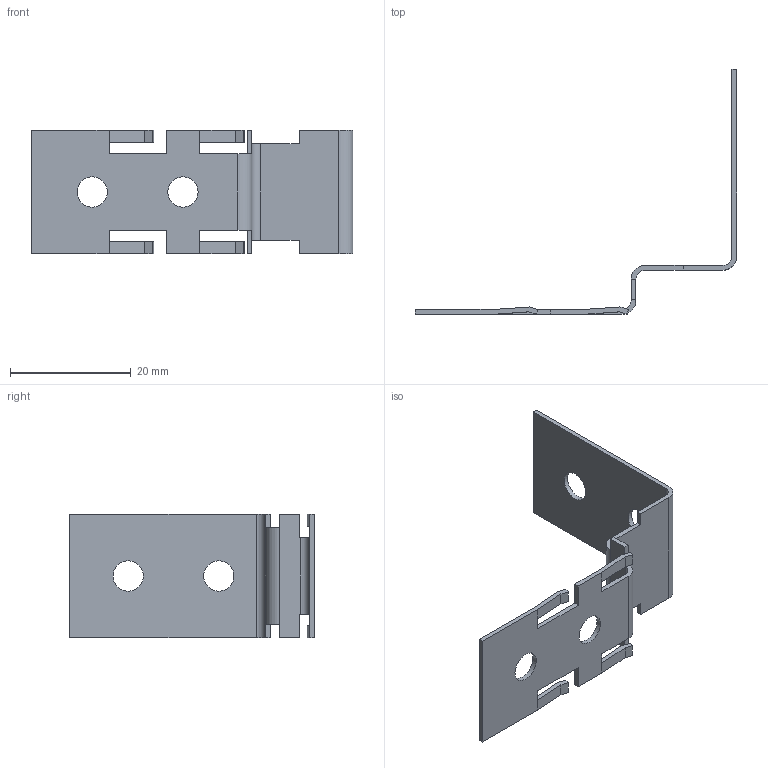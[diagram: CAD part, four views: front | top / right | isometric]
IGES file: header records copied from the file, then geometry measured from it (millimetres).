
Start section: Data from Parasolid IGES Translator 15.0.47, Copyright(c) 2006 Siemens P LM Software. All Rights Reserved.
Global section: file name: 9210143.igs; native system:  By UGS Corp.; preprocessor: XPlus GENERIC/IGES 3.0; author: Noname; organization: Noname; date: 20160311.190019; units: millimetre
Bounding box: 53.2 x 40.5 x 20.4 mm (x, y, z)
Surface area: 3581.5 mm2 (no closed solid volume)
Topology: 0 solids, 0 shells, 74 faces, 416 edges, 410 vertices
Faces by surface type: extrusion 64, revolution 10
